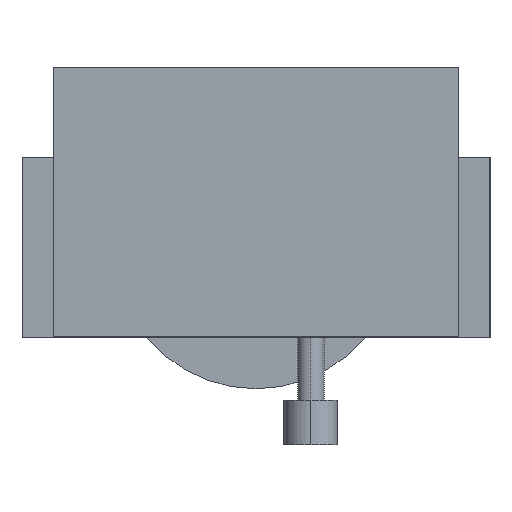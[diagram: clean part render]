
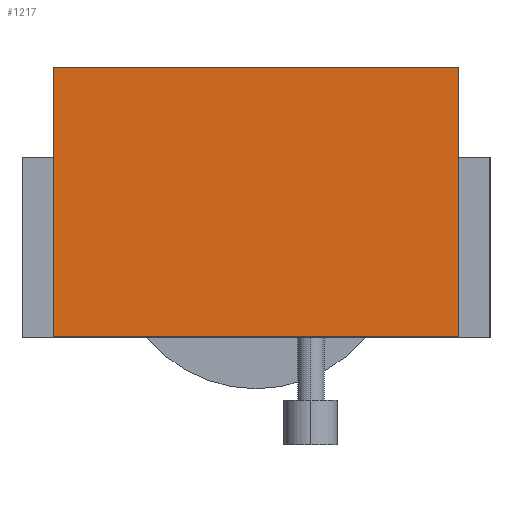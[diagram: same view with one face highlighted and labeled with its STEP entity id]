
A CAD part, left-side view. The second image highlights one B-rep face of the part: STEP entity #1217.
In plain terms, the highlighted planar face has unit normal (-1, 0, 0).
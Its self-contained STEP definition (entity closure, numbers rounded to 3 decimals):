
#150 = ORIENTED_EDGE ( 'NONE', *, *, #10494, .F. ) ;
#466 = VECTOR ( 'NONE', #2379, 1000. ) ;
#765 = VECTOR ( 'NONE', #6793, 1000. ) ;
#1217 = ADVANCED_FACE ( 'NONE', ( #2834 ), #7187, .F. ) ;
#1423 = DIRECTION ( 'NONE',  ( 1., 0., 0. ) ) ;
#1434 = DIRECTION ( 'NONE',  ( 0., 0., -1. ) ) ;
#2379 = DIRECTION ( 'NONE',  ( 0., -1., 0. ) ) ;
#2460 = CARTESIAN_POINT ( 'NONE',  ( -110., 45., 15. ) ) ;
#2834 = FACE_OUTER_BOUND ( 'NONE', #5022, .T. ) ;
#3040 = CARTESIAN_POINT ( 'NONE',  ( -110., 45., 15. ) ) ;
#3084 = CARTESIAN_POINT ( 'NONE',  ( -110., 45., 15. ) ) ;
#3448 = VERTEX_POINT ( 'NONE', #5425 ) ;
#3608 = VECTOR ( 'NONE', #11333, 1000. ) ;
#3662 = CARTESIAN_POINT ( 'NONE',  ( -110., 45., -45. ) ) ;
#3976 = ORIENTED_EDGE ( 'NONE', *, *, #11796, .F. ) ;
#4404 = CARTESIAN_POINT ( 'NONE',  ( -110., 45., 15. ) ) ;
#4867 = LINE ( 'NONE', #12178, #7298 ) ;
#5022 = EDGE_LOOP ( 'NONE', ( #14947, #9616, #3976, #150 ) ) ;
#5425 = CARTESIAN_POINT ( 'NONE',  ( -110., -45., -45. ) ) ;
#5592 = VERTEX_POINT ( 'NONE', #11539 ) ;
#6372 = EDGE_CURVE ( 'NONE', #12939, #14660, #11321, .T. ) ;
#6793 = DIRECTION ( 'NONE',  ( 0., 0., -1. ) ) ;
#7187 = PLANE ( 'NONE',  #11422 ) ;
#7298 = VECTOR ( 'NONE', #1434, 1000. ) ;
#8073 = LINE ( 'NONE', #10702, #466 ) ;
#9616 = ORIENTED_EDGE ( 'NONE', *, *, #11266, .T. ) ;
#9737 = DIRECTION ( 'NONE',  ( 0., 0., -1. ) ) ;
#9948 = LINE ( 'NONE', #3084, #3608 ) ;
#10494 = EDGE_CURVE ( 'NONE', #12939, #5592, #9948, .T. ) ;
#10702 = CARTESIAN_POINT ( 'NONE',  ( -110., 45., -45. ) ) ;
#11266 = EDGE_CURVE ( 'NONE', #14660, #3448, #8073, .T. ) ;
#11321 = LINE ( 'NONE', #4404, #765 ) ;
#11333 = DIRECTION ( 'NONE',  ( 0., -1., 0. ) ) ;
#11422 = AXIS2_PLACEMENT_3D ( 'NONE', #2460, #1423, #9737 ) ;
#11539 = CARTESIAN_POINT ( 'NONE',  ( -110., -45., 15. ) ) ;
#11796 = EDGE_CURVE ( 'NONE', #5592, #3448, #4867, .T. ) ;
#12178 = CARTESIAN_POINT ( 'NONE',  ( -110., -45., 15. ) ) ;
#12939 = VERTEX_POINT ( 'NONE', #3040 ) ;
#14660 = VERTEX_POINT ( 'NONE', #3662 ) ;
#14947 = ORIENTED_EDGE ( 'NONE', *, *, #6372, .T. ) ;
